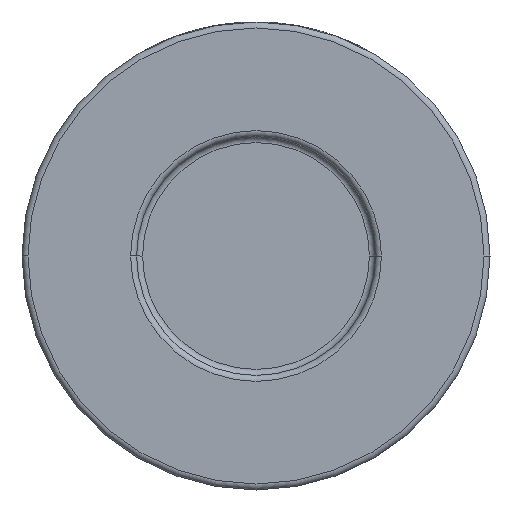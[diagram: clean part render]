
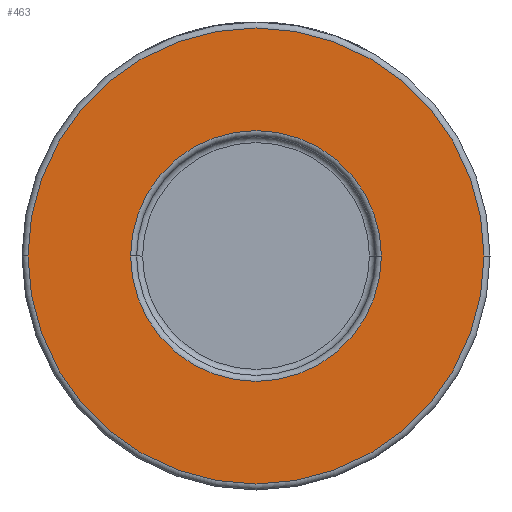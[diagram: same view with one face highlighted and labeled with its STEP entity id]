
A CAD part, front view. The second image highlights one B-rep face of the part: STEP entity #463.
In plain terms, the highlighted planar face has unit normal (0, -1, 0).
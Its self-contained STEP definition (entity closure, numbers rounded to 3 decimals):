
#95 = ORIENTED_EDGE ( 'NONE', *, *, #3886, .T. ) ;
#198 = CIRCLE ( 'NONE', #4294, 38. ) ;
#299 = DIRECTION ( 'NONE',  ( 1., 0., 0. ) ) ;
#396 = CARTESIAN_POINT ( 'NONE',  ( -20.9, -26., 0. ) ) ;
#463 = ADVANCED_FACE ( 'NONE', ( #2735, #1987 ), #2409, .T. ) ;
#471 = AXIS2_PLACEMENT_3D ( 'NONE', #3741, #2687, #3806 ) ;
#504 = DIRECTION ( 'NONE',  ( 1., 0., 0. ) ) ;
#521 = CARTESIAN_POINT ( 'NONE',  ( 0., -26., 0. ) ) ;
#570 = AXIS2_PLACEMENT_3D ( 'NONE', #3047, #1641, #3066 ) ;
#646 = CIRCLE ( 'NONE', #570, 38. ) ;
#899 = DIRECTION ( 'NONE',  ( 0., 1., 0. ) ) ;
#1193 = DIRECTION ( 'NONE',  ( 0., -1., 0. ) ) ;
#1331 = CARTESIAN_POINT ( 'NONE',  ( -38., -26., 0. ) ) ;
#1517 = DIRECTION ( 'NONE',  ( 1., 0., 0. ) ) ;
#1528 = CIRCLE ( 'NONE', #2129, 20.9 ) ;
#1588 = EDGE_CURVE ( 'NONE', #1746, #2450, #3766, .T. ) ;
#1641 = DIRECTION ( 'NONE',  ( 0., -1., 0. ) ) ;
#1746 = VERTEX_POINT ( 'NONE', #396 ) ;
#1748 = AXIS2_PLACEMENT_3D ( 'NONE', #4530, #2758, #299 ) ;
#1885 = EDGE_CURVE ( 'NONE', #3054, #1978, #198, .T. ) ;
#1978 = VERTEX_POINT ( 'NONE', #2238 ) ;
#1987 = FACE_OUTER_BOUND ( 'NONE', #3427, .T. ) ;
#2129 = AXIS2_PLACEMENT_3D ( 'NONE', #2683, #899, #504 ) ;
#2189 = ORIENTED_EDGE ( 'NONE', *, *, #1588, .T. ) ;
#2238 = CARTESIAN_POINT ( 'NONE',  ( 38., -26., 0. ) ) ;
#2409 = PLANE ( 'NONE',  #471 ) ;
#2450 = VERTEX_POINT ( 'NONE', #3815 ) ;
#2683 = CARTESIAN_POINT ( 'NONE',  ( 0., -26., 0. ) ) ;
#2687 = DIRECTION ( 'NONE',  ( 0., -1., 0. ) ) ;
#2735 = FACE_BOUND ( 'NONE', #4313, .T. ) ;
#2758 = DIRECTION ( 'NONE',  ( 0., 1., 0. ) ) ;
#3047 = CARTESIAN_POINT ( 'NONE',  ( 0., -26., 0. ) ) ;
#3054 = VERTEX_POINT ( 'NONE', #1331 ) ;
#3066 = DIRECTION ( 'NONE',  ( 1., 0., 0. ) ) ;
#3149 = ORIENTED_EDGE ( 'NONE', *, *, #4392, .T. ) ;
#3404 = ORIENTED_EDGE ( 'NONE', *, *, #1885, .T. ) ;
#3427 = EDGE_LOOP ( 'NONE', ( #95, #3404 ) ) ;
#3741 = CARTESIAN_POINT ( 'NONE',  ( 39., -26., 0. ) ) ;
#3766 = CIRCLE ( 'NONE', #1748, 20.9 ) ;
#3806 = DIRECTION ( 'NONE',  ( 1., 0., 0. ) ) ;
#3815 = CARTESIAN_POINT ( 'NONE',  ( 20.9, -26., 0. ) ) ;
#3886 = EDGE_CURVE ( 'NONE', #1978, #3054, #646, .T. ) ;
#4294 = AXIS2_PLACEMENT_3D ( 'NONE', #521, #1193, #1517 ) ;
#4313 = EDGE_LOOP ( 'NONE', ( #3149, #2189 ) ) ;
#4392 = EDGE_CURVE ( 'NONE', #2450, #1746, #1528, .T. ) ;
#4530 = CARTESIAN_POINT ( 'NONE',  ( 0., -26., 0. ) ) ;
